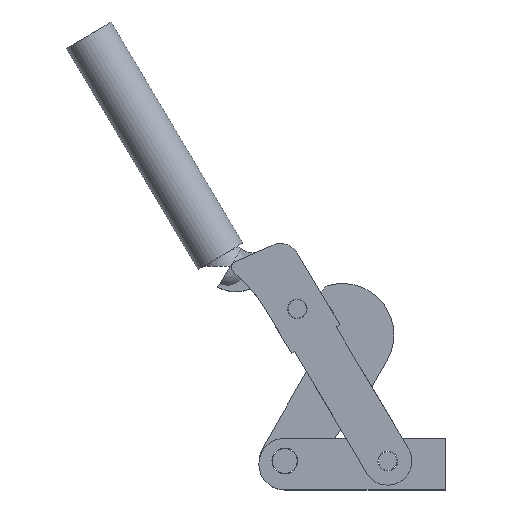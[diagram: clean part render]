
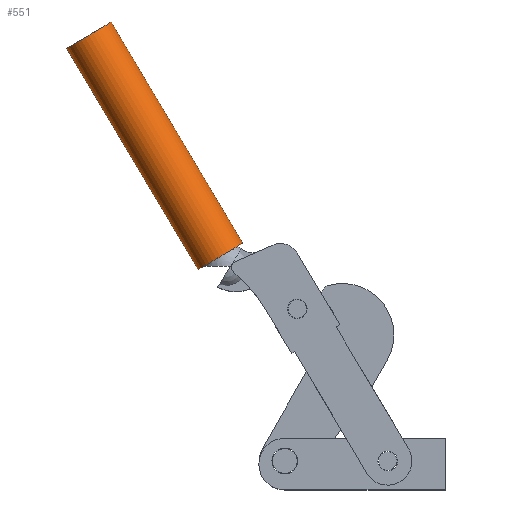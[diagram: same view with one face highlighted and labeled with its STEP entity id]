
A CAD part, top view. The second image highlights one B-rep face of the part: STEP entity #551.
In plain terms, the highlighted cylindrical face has radius 12.827 mm (diameter 25.654 mm), a partial arc.
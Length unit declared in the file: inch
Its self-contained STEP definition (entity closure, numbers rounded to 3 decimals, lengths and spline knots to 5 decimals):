
#551 = ADVANCED_FACE( '', ( #755 ), #756, .T. );
#755 = FACE_OUTER_BOUND( '', #1089, .T. );
#756 = CYLINDRICAL_SURFACE( '', #1090, 0.505 );
#1089 = EDGE_LOOP( '', ( #1682, #1683, #1684, #1685 ) );
#1090 = AXIS2_PLACEMENT_3D( '', #1686, #1687, #1688 );
#1682 = ORIENTED_EDGE( '', *, *, #2695, .F. );
#1683 = ORIENTED_EDGE( '', *, *, #2696, .T. );
#1684 = ORIENTED_EDGE( '', *, *, #2697, .F. );
#1685 = ORIENTED_EDGE( '', *, *, #2698, .F. );
#1686 = CARTESIAN_POINT( '', ( -7.05375, 9.0481, 0. ) );
#1687 = DIRECTION( '', ( 0.511, -0.859, 0. ) );
#1688 = DIRECTION( '', ( 0.859, 0.511, 0. ) );
#2695 = EDGE_CURVE( '', #3194, #3195, #3196, .T. );
#2696 = EDGE_CURVE( '', #3194, #3197, #3198, .T. );
#2697 = EDGE_CURVE( '', #3199, #3197, #3200, .T. );
#2698 = EDGE_CURVE( '', #3195, #3199, #3201, .T. );
#3194 = VERTEX_POINT( '', #3921 );
#3195 = VERTEX_POINT( '', #3922 );
#3196 = LINE( '', #3923, #3924 );
#3197 = VERTEX_POINT( '', #3925 );
#3198 = CIRCLE( '', #3926, 0.505 );
#3199 = VERTEX_POINT( '', #3927 );
#3200 = LINE( '', #3928, #3929 );
#3201 = CIRCLE( '', #3930, 0.505 );
#3921 = CARTESIAN_POINT( '', ( -6.49193, 9.0915, 0. ) );
#3922 = CARTESIAN_POINT( '', ( -3.9351, 4.79469, 0. ) );
#3923 = CARTESIAN_POINT( '', ( -6.61977, 9.30634, 0. ) );
#3924 = VECTOR( '', #4795, 1. );
#3925 = CARTESIAN_POINT( '', ( -7.35989, 8.57502, 0. ) );
#3926 = AXIS2_PLACEMENT_3D( '', #4796, #4797, #4798 );
#3927 = CARTESIAN_POINT( '', ( -4.80306, 4.27821, 0. ) );
#3928 = CARTESIAN_POINT( '', ( -7.48773, 8.78986, 0. ) );
#3929 = VECTOR( '', #4799, 1. );
#3930 = AXIS2_PLACEMENT_3D( '', #4800, #4801, #4802 );
#4795 = DIRECTION( '', ( 0.511, -0.859, 0. ) );
#4796 = CARTESIAN_POINT( '', ( -6.92591, 8.83326, 0. ) );
#4797 = DIRECTION( '', ( 0.511, -0.859, 0. ) );
#4798 = DIRECTION( '', ( 0.859, 0.511, 0. ) );
#4799 = DIRECTION( '', ( -0.511, 0.859, 0. ) );
#4800 = CARTESIAN_POINT( '', ( -4.36908, 4.53645, 0. ) );
#4801 = DIRECTION( '', ( 0.511, -0.859, 0. ) );
#4802 = DIRECTION( '', ( 0.859, 0.511, 0. ) );
